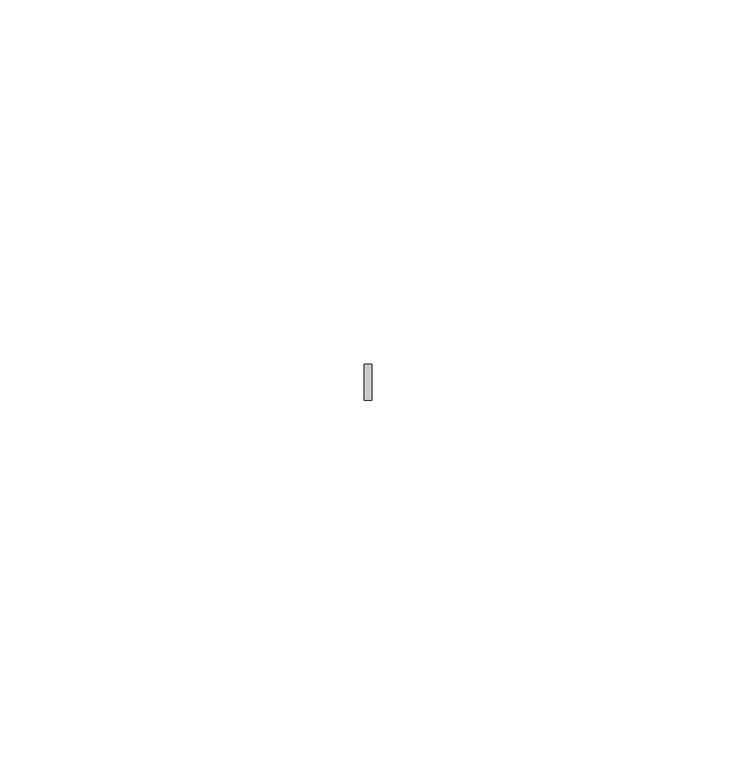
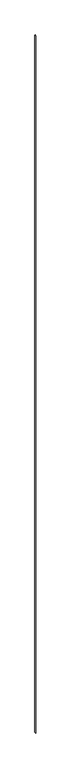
"""IFC4 building model written with IfcOpenShell, lengths in millimetres: member geometry, Прямоугольный импост : 3-AMG-2-Профиль (скотч 3М) 1 средний."""

from ifc_helpers import new_model, si_unit, frame, origin, place, context, project, spatial, polyline, outline, extrude, source, transform, mapped, element, save


def member_233834ce(model_context):
    return source(origin(), model_context, "Body", "SweptSolid", [
        extrude(outline(polyline([(0.5087396, -34.5), (-0.5292752, -34.5), (-0.5292752, -29.5), (0.5087396, -29.5), (0.5087396, -34.5)])), frame((0.0, 0.0, -2717.8), z_axis=(0.0, 0.0, 1.0), x_axis=(1.0, 0.0, 0.0)), (0.0, 0.0, 1.0), 2717.8),
    ])


if __name__ == "__main__":
    model = new_model("IFC4")
    model_context = context("Model", 3, world=origin())
    ifc_project = project(units=[si_unit("LENGTHUNIT", "METRE", prefix="MILLI")], contexts=[model_context])
    site = spatial("IfcSite", under=ifc_project)
    building = spatial("IfcBuilding", under=site)
    placement = place(None, origin())
    member_shape = member_233834ce(model_context)
    element("IfcMember", 1, ObjectType="Прямоугольный импост : 3-AMG-2-Профиль (скотч 3М) 1 средний", at=placement, inside=building, context=model_context, shape_type="MappedRepresentation", body=[
        mapped(member_shape, transform((0.0, 0.0, 0.0), x_axis=(1.0, 0.0, 0.0), y_axis=(0.0, 1.0, 0.0), z_axis=(0.0, 0.0, 1.0))),
    ])
    save(model, "model.ifc")
